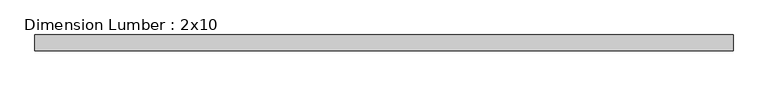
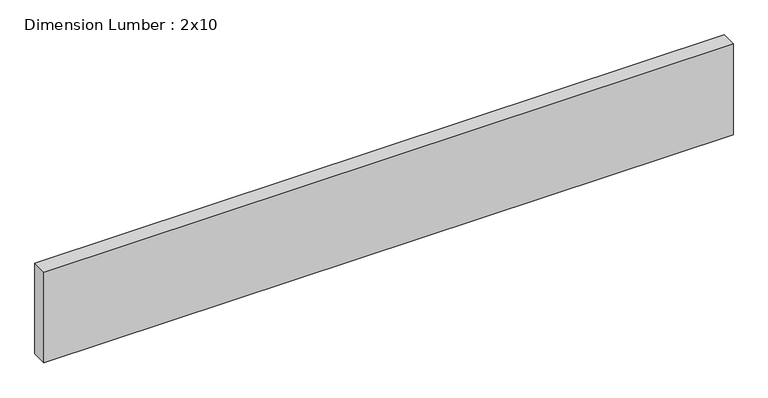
"""IFC4 building model written with IfcOpenShell, lengths in millimetres: beam geometry, Dimension Lumber : 2x10."""

from ifc_helpers import new_model, si_unit, frame, origin, place, context, project, spatial, polyline, outline, extrude, source, transform, mapped, element, save


def dimension_lumber_2x10_92e94e1a(model_context):
    return source(origin(), model_context, "Body", "SweptSolid", [
        extrude(outline(polyline([(844.55, 19.05), (844.55, -19.05), (-844.55, -19.05), (-844.55, 19.05), (844.55, 19.05)])), frame((0.0, 0.0, -117.475), z_axis=(0.0, 0.0, 1.0), x_axis=(1.0, 0.0, 0.0)), (0.0, 0.0, 1.0), 234.95),
    ])


if __name__ == "__main__":
    model = new_model("IFC4")
    model_context = context("Model", 3, world=origin())
    ifc_project = project(units=[si_unit("LENGTHUNIT", "METRE", prefix="MILLI")], contexts=[model_context])
    site = spatial("IfcSite", under=ifc_project)
    building = spatial("IfcBuilding", under=site)
    placement = place(None, origin())
    dimension_lumber_2x10_shape = dimension_lumber_2x10_92e94e1a(model_context)
    element("IfcBeam", 1, ObjectType="Dimension Lumber : 2x10", at=placement, inside=building, context=model_context, shape_type="MappedRepresentation", body=[
        mapped(dimension_lumber_2x10_shape, transform((0.0, 0.0, 0.0), x_axis=(1.0, 0.0, 0.0), y_axis=(0.0, 1.0, 0.0), z_axis=(0.0, 0.0, 1.0))),
    ])
    save(model, "model.ifc")
